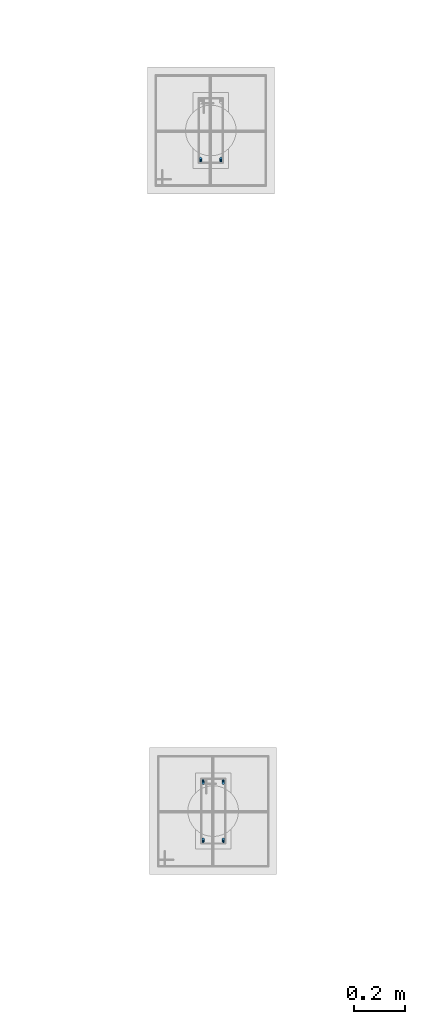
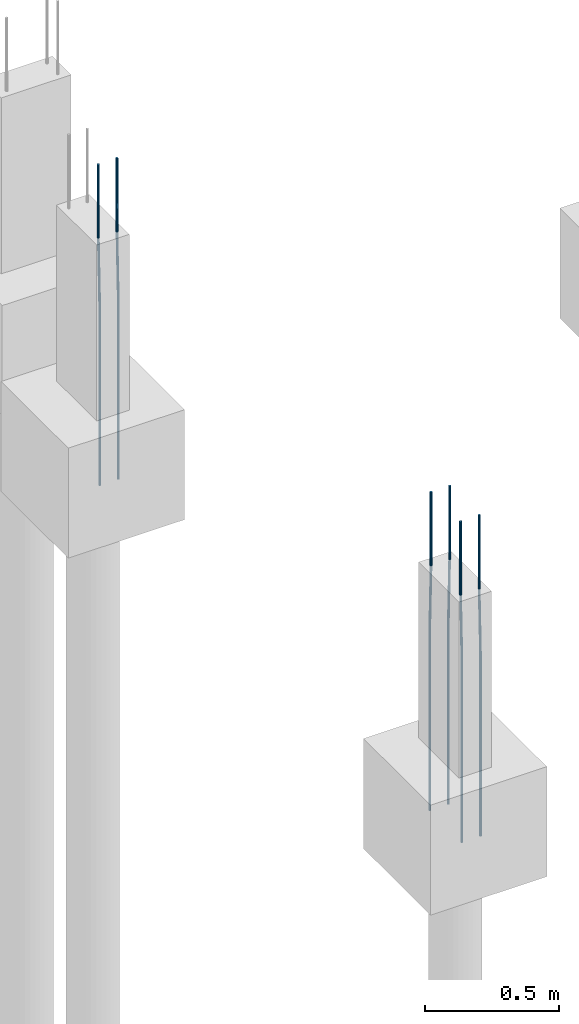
# One storey, part 58 of 119: 6 reinforcing bars.
"""IFC4 building model written with IfcOpenShell, lengths in centimetres."""

from ifc_helpers import new_model, entity, si_unit, derived_unit, frame, origin_with_axes, place, context, project, spatial, element, save


model = new_model("IFC4")

# Units and contexts
model_context = context("Model", 3, precision=1e-05, world=origin_with_axes(), identifier="Body")
ifc_project = project(units=[si_unit("LENGTHUNIT", "METRE", prefix="CENTI"), si_unit("VOLUMEUNIT", "CUBIC_METRE"), si_unit("AREAUNIT", "SQUARE_METRE"), si_unit("POWERUNIT", "WATT"), si_unit("LUMINOUSFLUXUNIT", "LUMEN"), si_unit("ELECTRICCURRENTUNIT", "AMPERE"), si_unit("PRESSUREUNIT", "PASCAL", prefix="KILO"), si_unit("MASSUNIT", "GRAM", prefix="KILO"), si_unit("PLANEANGLEUNIT", "RADIAN"), derived_unit("VOLUMETRICFLOWRATEUNIT", [(si_unit("LENGTHUNIT", "METRE"), 3), (si_unit("TIMEUNIT", "SECOND"), -1)])], contexts=[model_context])

# Site, building, storey
site_placement = place(None, frame((-4000.0, 0.0, 0.0), z_axis=(0.0, 0.0, 1.0), x_axis=(1.0, 0.0, 0.0)))
site = spatial("IfcSite", under=ifc_project, at=site_placement, Name="PADRÃO")
building_placement = place(site_placement, frame((0.0, 0.0, -14.0)))
building = spatial("IfcBuilding", under=site, at=building_placement, Name="CRECHE PRÉ-ESCOLA TIPO 2")
storey_placement = place(building_placement, origin_with_axes())
storey = spatial("IfcBuildingStorey", under=building, at=storey_placement, Name="FUNDAÇÃO", CompositionType="ELEMENT", Elevation=-14.0)

# Reinforcing bars
for number, where, z_axis, x_axis, name in (
    (1, (3142.5, 3980.01, 33.3573001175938), (0.0, 0.0, 1.0), (1.0, 0.0, 0.0), "P27 - Longitudinal"),
    (2, (3134.5, 3980.01, 33.3573001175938), (0.0, 0.0, 1.0), (1.0, 0.0, 0.0), "P27 - Longitudinal"),
    (3, (3143.43, 3711.76, 33.3573001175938), (0.0, 0.0, 1.0), (1.0, 0.0, 0.0), "P32 - Longitudinal"),
    (4, (3135.43, 3711.76, 33.3573001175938), (0.0, 0.0, 1.0), (1.0, 0.0, 0.0), "P32 - Longitudinal"),
):
    element("IfcReinforcingBar", number, at=place(storey_placement, frame(where, z_axis=z_axis, x_axis=x_axis)), inside=storey, Name=name, BarLength=0.0, CrossSectionArea=7.853981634e-05, NominalDiameter=1.0, PredefinedType="MAIN", context=model_context, shape_type="AdvancedSweptSolid", body=[
        entity("IfcSweptDiskSolid", entity("IfcCompositeCurve", [entity("IfcCompositeCurveSegment", "CONTINUOUS", True, entity("IfcPolyline", [entity("IfcCartesianPoint", [0.0, -0.5, -145.357300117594]), entity("IfcCartesianPoint", [0.0, -0.5, -63.3573001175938])])), entity("IfcCompositeCurveSegment", "CONTINUOUS", True, entity("IfcPolyline", [entity("IfcCartesianPoint", [0.0, -0.5, -63.3573001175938]), entity("IfcCartesianPoint", [0.0, 0.5, -33.3573001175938])])), entity("IfcCompositeCurveSegment", "CONTINUOUS", True, entity("IfcPolyline", [entity("IfcCartesianPoint", [0.0, 0.5, -33.3573001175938]), entity("IfcCartesianPoint", [0.0, 0.5, 0.0])]))], False), 0.5),
    ])
for number, where, z_axis, x_axis, name in (
    (5, (3135.43, 3734.76, 33.3573001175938), (0.0, 0.0, 1.0), (1.0, 0.0, 0.0), "P32 - Longitudinal"),
    (6, (3143.43, 3734.76, 33.3573001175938), (0.0, 0.0, 1.0), (1.0, 0.0, 0.0), "P32 - Longitudinal"),
):
    element("IfcReinforcingBar", number, at=place(storey_placement, frame(where, z_axis=z_axis, x_axis=x_axis)), inside=storey, Name=name, BarLength=0.0, CrossSectionArea=7.853981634e-05, NominalDiameter=1.0, PredefinedType="MAIN", context=model_context, shape_type="AdvancedSweptSolid", body=[
        entity("IfcSweptDiskSolid", entity("IfcCompositeCurve", [entity("IfcCompositeCurveSegment", "CONTINUOUS", True, entity("IfcPolyline", [entity("IfcCartesianPoint", [0.0, 0.5, -145.357300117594]), entity("IfcCartesianPoint", [0.0, 0.5, -63.3573001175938])])), entity("IfcCompositeCurveSegment", "CONTINUOUS", True, entity("IfcPolyline", [entity("IfcCartesianPoint", [0.0, 0.5, -63.3573001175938]), entity("IfcCartesianPoint", [0.0, -0.5, -33.3573001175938])])), entity("IfcCompositeCurveSegment", "CONTINUOUS", True, entity("IfcPolyline", [entity("IfcCartesianPoint", [0.0, -0.5, -33.3573001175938]), entity("IfcCartesianPoint", [0.0, -0.5, 0.0])]))], False), 0.5),
    ])

save(model, "model.ifc")
